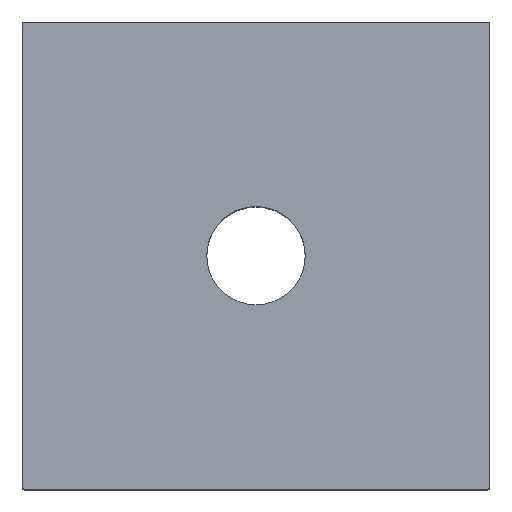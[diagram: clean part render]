
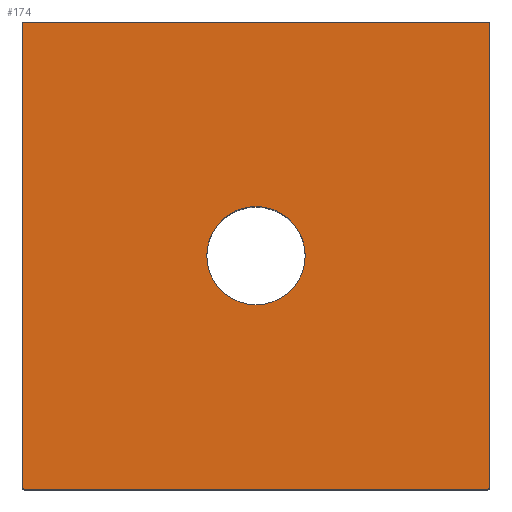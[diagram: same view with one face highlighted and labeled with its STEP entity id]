
A CAD part, top view. The second image highlights one B-rep face of the part: STEP entity #174.
In plain terms, the highlighted planar face has unit normal (0, 0, 1).
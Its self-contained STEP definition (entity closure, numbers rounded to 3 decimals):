
#174=ADVANCED_FACE('',(#213,#214),#202,.T.);
#202=PLANE('',#625);
#213=FACE_BOUND('',#217,.T.);
#214=FACE_BOUND('',#218,.T.);
#217=EDGE_LOOP('',(#323,#324,#325,#326,#327,#328,#329,#330));
#218=EDGE_LOOP('',(#331,#332));
#249=LINE('',#781,#283);
#250=LINE('',#785,#284);
#251=LINE('',#789,#285);
#252=LINE('',#793,#286);
#283=VECTOR('',#670,1.);
#284=VECTOR('',#673,1.);
#285=VECTOR('',#676,1.);
#286=VECTOR('',#679,1.);
#323=ORIENTED_EDGE('',*,*,#531,.T.);
#324=ORIENTED_EDGE('',*,*,#532,.T.);
#325=ORIENTED_EDGE('',*,*,#533,.T.);
#326=ORIENTED_EDGE('',*,*,#534,.T.);
#327=ORIENTED_EDGE('',*,*,#535,.T.);
#328=ORIENTED_EDGE('',*,*,#536,.T.);
#329=ORIENTED_EDGE('',*,*,#537,.T.);
#330=ORIENTED_EDGE('',*,*,#538,.T.);
#331=ORIENTED_EDGE('',*,*,#539,.T.);
#332=ORIENTED_EDGE('',*,*,#540,.T.);
#479=VERTEX_POINT('',#779);
#480=VERTEX_POINT('',#780);
#481=VERTEX_POINT('',#782);
#482=VERTEX_POINT('',#784);
#483=VERTEX_POINT('',#786);
#484=VERTEX_POINT('',#788);
#485=VERTEX_POINT('',#790);
#486=VERTEX_POINT('',#792);
#487=VERTEX_POINT('',#795);
#488=VERTEX_POINT('',#796);
#531=EDGE_CURVE('',#479,#480,#605,.T.);
#532=EDGE_CURVE('',#480,#481,#249,.T.);
#533=EDGE_CURVE('',#481,#482,#606,.T.);
#534=EDGE_CURVE('',#482,#483,#250,.T.);
#535=EDGE_CURVE('',#483,#484,#607,.T.);
#536=EDGE_CURVE('',#484,#485,#251,.T.);
#537=EDGE_CURVE('',#485,#486,#608,.T.);
#538=EDGE_CURVE('',#486,#479,#252,.T.);
#539=EDGE_CURVE('',#487,#488,#609,.T.);
#540=EDGE_CURVE('',#488,#487,#610,.T.);
#605=CIRCLE('',#619,0.5);
#606=CIRCLE('',#620,0.5);
#607=CIRCLE('',#621,0.5);
#608=CIRCLE('',#622,0.5);
#609=CIRCLE('',#623,10.);
#610=CIRCLE('',#624,10.);
#619=AXIS2_PLACEMENT_3D('',#778,#668,#669);
#620=AXIS2_PLACEMENT_3D('',#783,#671,#672);
#621=AXIS2_PLACEMENT_3D('',#787,#674,#675);
#622=AXIS2_PLACEMENT_3D('',#791,#677,#678);
#623=AXIS2_PLACEMENT_3D('',#794,#680,#681);
#624=AXIS2_PLACEMENT_3D('',#797,#682,#683);
#625=AXIS2_PLACEMENT_3D('',#798,#684,#685);
#668=DIRECTION('',(0.,0.,1.));
#669=DIRECTION('',(-0.707,0.707,0.));
#670=DIRECTION('',(0.,1.,0.));
#671=DIRECTION('',(0.,0.,1.));
#672=DIRECTION('',(-0.707,-0.707,0.));
#673=DIRECTION('',(-1.,0.,0.));
#674=DIRECTION('',(0.,0.,1.));
#675=DIRECTION('',(0.707,-0.707,0.));
#676=DIRECTION('',(0.,-1.,0.));
#677=DIRECTION('',(0.,0.,1.));
#678=DIRECTION('',(0.707,0.707,0.));
#679=DIRECTION('',(1.,0.,0.));
#680=DIRECTION('',(0.,0.,-1.));
#681=DIRECTION('',(-1.,0.,0.));
#682=DIRECTION('',(0.,0.,-1.));
#683=DIRECTION('',(1.,0.,0.));
#684=DIRECTION('',(0.,0.,1.));
#685=DIRECTION('',(-1.,0.,0.));
#778=CARTESIAN_POINT('',(47.,-47.,82.));
#779=CARTESIAN_POINT('',(47.,-47.5,82.));
#780=CARTESIAN_POINT('',(47.5,-47.,82.));
#781=CARTESIAN_POINT('',(47.5,-47.,82.));
#782=CARTESIAN_POINT('',(47.5,47.,82.));
#783=CARTESIAN_POINT('',(47.,47.,82.));
#784=CARTESIAN_POINT('',(47.,47.5,82.));
#785=CARTESIAN_POINT('',(-47.,47.5,82.));
#786=CARTESIAN_POINT('',(-47.,47.5,82.));
#787=CARTESIAN_POINT('',(-47.,47.,82.));
#788=CARTESIAN_POINT('',(-47.5,47.,82.));
#789=CARTESIAN_POINT('',(-47.5,-47.,82.));
#790=CARTESIAN_POINT('',(-47.5,-47.,82.));
#791=CARTESIAN_POINT('',(-47.,-47.,82.));
#792=CARTESIAN_POINT('',(-47.,-47.5,82.));
#793=CARTESIAN_POINT('',(-47.,-47.5,82.));
#794=CARTESIAN_POINT('',(0.,0.,82.));
#795=CARTESIAN_POINT('',(0.,10.,82.));
#796=CARTESIAN_POINT('',(0.,-10.,82.));
#797=CARTESIAN_POINT('',(0.,0.,82.));
#798=CARTESIAN_POINT('',(47.,-47.5,82.));
